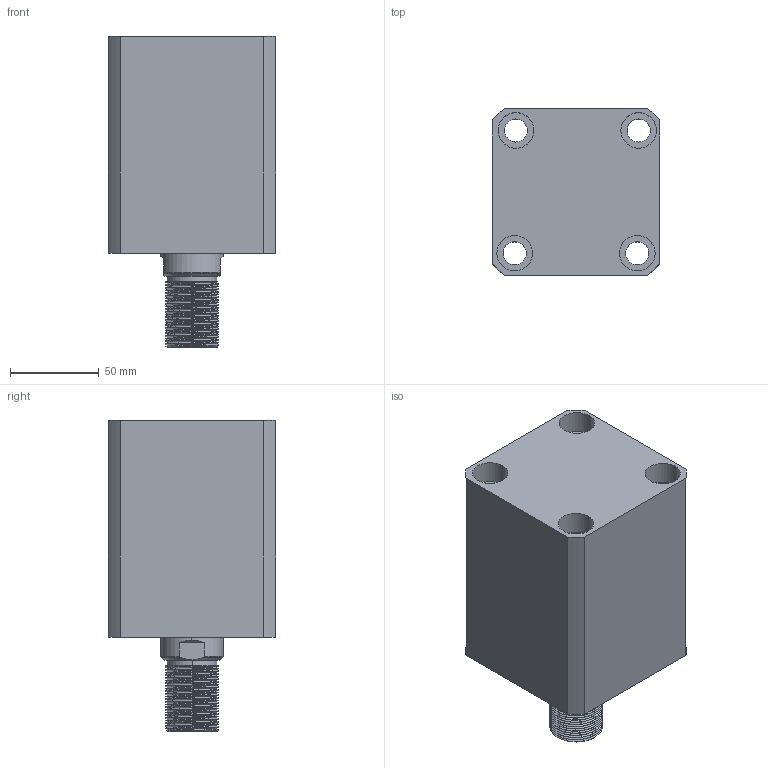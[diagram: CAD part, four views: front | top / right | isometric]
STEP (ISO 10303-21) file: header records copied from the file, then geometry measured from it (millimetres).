
FILE_DESCRIPTION (( 'STEP AP214' ), '1' );
FILE_NAME ('chtb-sdma63x55w_asm.STEP', '2018-05-18T09:22:40', ( 'Windows' ), ( 'Microsoft' ), 'SwSTEP 2.0', 'SolidWorks 2015', '' );
FILE_SCHEMA (( 'AUTOMOTIVE_DESIGN' ));
Length unit declared in the file: millimetre
Products named in the file (4): chtb-sdma63x55w_asm; CHTB-SDMA63X55NBT; CHTB63X55WHSG; CHTB-63QG
Assembly tree (3 placements, depth 2):
  chtb-sdma63x55w_asm
    CHTB-63QG
    CHTB63X55WHSG
    CHTB-SDMA63X55NBT
Bounding box: 94 x 94 x 175 mm (x, y, z)
Volume: 902235.3 mm3; surface area: 154822.9 mm2
Topology: 3 solids, 3 shells, 219 faces, 632 edges, 430 vertices
Faces by surface type: cylinder 156, plane 34, bspline 14, cone 9, torus 6
Entity records: 22297 total; most frequent: CARTESIAN_POINT 17024, ORIENTED_EDGE 1256, DIRECTION 878, EDGE_CURVE 628, VERTEX_POINT 430, AXIS2_PLACEMENT_3D 343, EDGE_LOOP 252, ADVANCED_FACE 219
